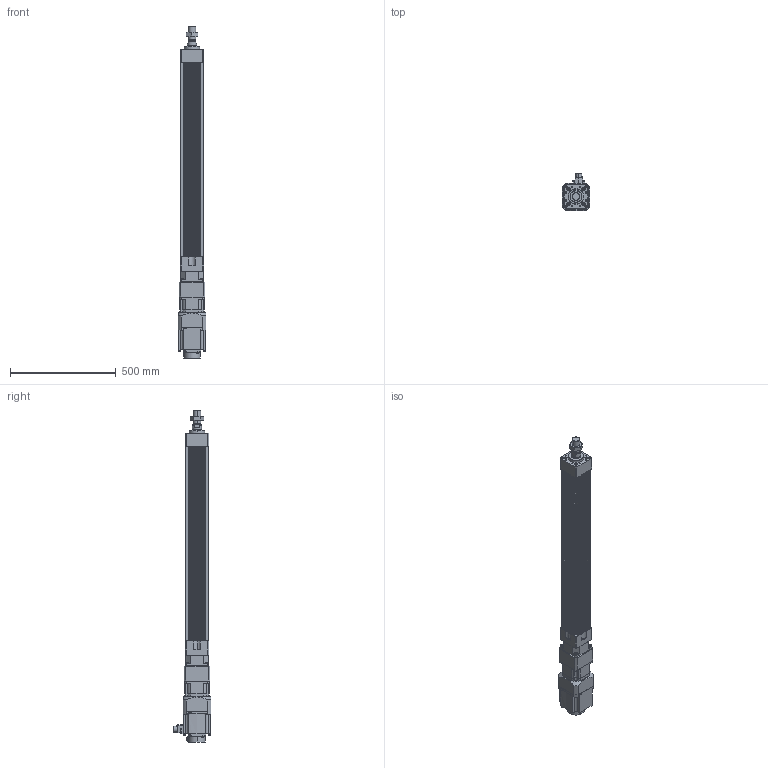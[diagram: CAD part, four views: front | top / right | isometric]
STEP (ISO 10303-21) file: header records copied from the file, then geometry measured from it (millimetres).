
FILE_DESCRIPTION (( 'STEP AP203' ), '1' );
FILE_NAME ('HES110NS(HS)-S750-W015G00-M.STEP', '2023-01-27T11:14:57', ( 'tms' ), ( '' ), 'SwSTEP 2.0', 'SolidWorks 2013', '' );
FILE_SCHEMA (( 'CONFIG_CONTROL_DESIGN' ));
Length unit declared in the file: millimetre
Products named in the file (8): HES110 ROD M ST750; HG-SR152; M36X1.5P; HES110-S750-G120; AB1151; P0401400706; HES110NS(HS)-S750-W015G00-M; AB115-003[HG-SR152]
Assembly tree (7 placements, depth 3):
  HES110NS(HS)-S750-W015G00-M
    HES110-S750-G120
    HES110 ROD M ST750
    M36X1.5P
    AB115-003[HG-SR152]
      AB1151
      P0401400706
    HG-SR152
Bounding box: 130 x 177.49 x 1571.5 mm (x, y, z)
Volume: 9934835.7 mm3; surface area: 1433534.7 mm2
Topology: 4 solids, 15 shells, 1202 faces, 3026 edges, 1951 vertices
Faces by surface type: plane 551, cylinder 537, cone 102, bspline 8, torus 4
Entity records: 37654 total; most frequent: CARTESIAN_POINT 7134, DIRECTION 6533, ORIENTED_EDGE 5960, EDGE_CURVE 2990, AXIS2_PLACEMENT_3D 2410, VERTEX_POINT 1951, LINE 1713, VECTOR 1713
